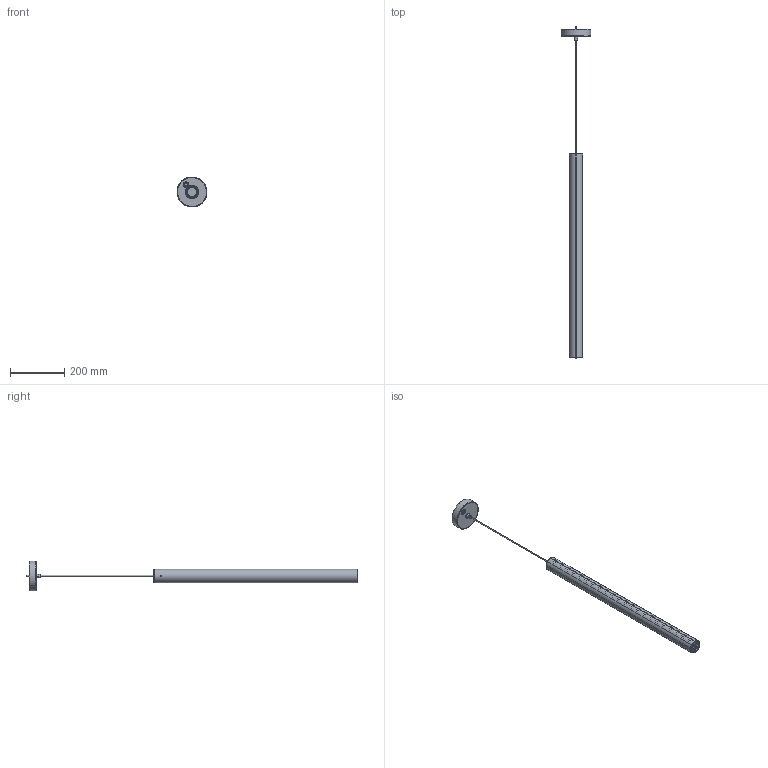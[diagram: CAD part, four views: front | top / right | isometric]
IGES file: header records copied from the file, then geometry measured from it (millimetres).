
Start section: SolidWorks IGES file using analytic representation for surfaces
Global section: file name: C:\Users\tungari.NEMOLIGHTING\Desktop\3D\PENDANT\3D_ILIUM_LED_PENDANT\3D_ILIUM_LED_PENDANT\3D_ILIUM_LED_PENDANT.IGS; native system: SolidWorks 2016; preprocessor: SolidWorks 2016; author: tungari; date: 180223.154119; units: millimetre
Bounding box: 110 x 1219 x 110 mm (x, y, z)
Surface area: 473308.4 mm2 (no closed solid volume)
Topology: 0 solids, 0 shells, 317 faces, 3949 edges, 3949 vertices
Faces by surface type: bspline 201, revolution 116
